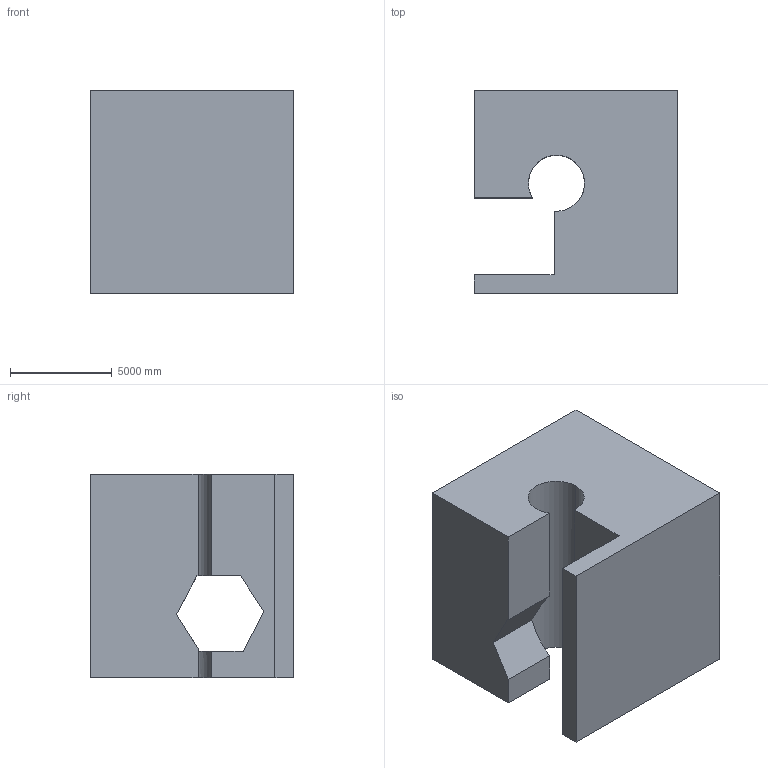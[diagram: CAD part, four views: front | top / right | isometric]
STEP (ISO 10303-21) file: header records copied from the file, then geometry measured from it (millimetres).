
FILE_DESCRIPTION (( 'STEP AP203' ), '1' );
FILE_NAME ('48.STEP', '2022-08-31T11:17:14', ( 'user' ), ( '' ), 'SwSTEP 2.0', 'SolidWorks 2021', '' );
FILE_SCHEMA (( 'CONFIG_CONTROL_DESIGN' ));
Length unit declared in the file: centimetre
Products named in the file (1): 48
Bounding box: 10000 x 10000 x 10000 mm (x, y, z)
Volume: 723411416713.6 mm3; surface area: 735056644.9 mm2
Topology: 1 solids, 1 shells, 25 faces, 72 edges, 48 vertices
Faces by surface type: plane 20, cylinder 5
Entity records: 896 total; most frequent: CARTESIAN_POINT 170, ORIENTED_EDGE 144, DIRECTION 125, EDGE_CURVE 72, LINE 55, VECTOR 55, VERTEX_POINT 48, AXIS2_PLACEMENT_3D 35
